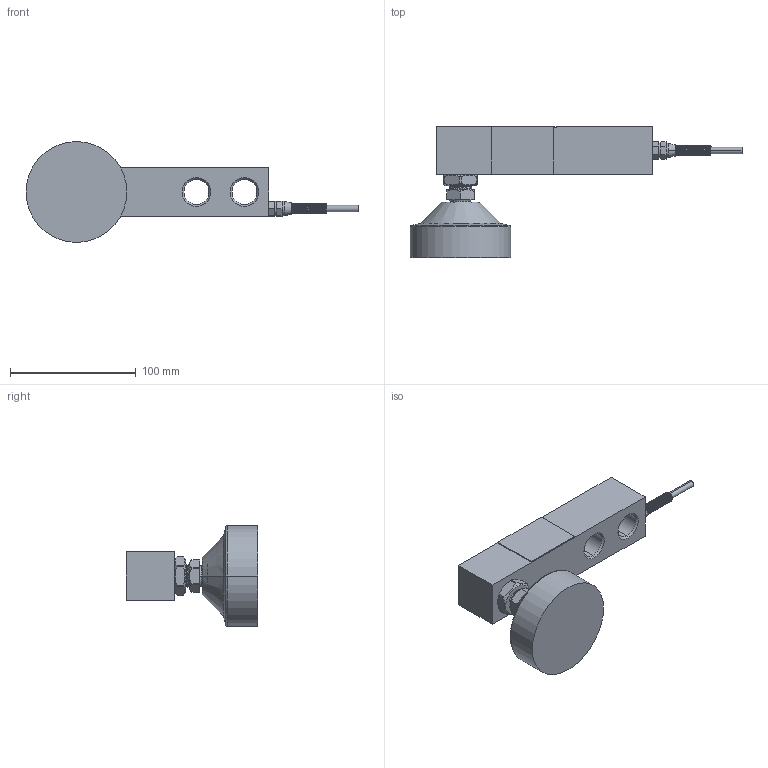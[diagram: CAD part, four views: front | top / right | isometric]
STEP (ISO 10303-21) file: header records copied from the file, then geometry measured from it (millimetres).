
FILE_DESCRIPTION (( 'STEP AP203' ), '1' );
FILE_NAME ('FH8C-5t+盓褐.STEP', '2022-01-10T14:38:38', ( '' ), ( '' ), 'SwSTEP 2.0', 'SolidWorks 2015', '' );
FILE_SCHEMA (( 'CONFIG_CONTROL_DESIGN' ));
Length unit declared in the file: millimetre
Products named in the file (1): FH8C-5t+盓褐
Bounding box: 263.5 x 104 x 80 mm (x, y, z)
Volume: 405315.6 mm3; surface area: 67152.8 mm2
Topology: 5 solids, 5 shells, 224 faces, 584 edges, 380 vertices
Faces by surface type: cylinder 110, plane 63, cone 20, torus 18, bspline 13
Entity records: 29710 total; most frequent: CARTESIAN_POINT 24621, ORIENTED_EDGE 1168, DIRECTION 933, EDGE_CURVE 584, VERTEX_POINT 380, AXIS2_PLACEMENT_3D 356, EDGE_LOOP 240, ADVANCED_FACE 224
